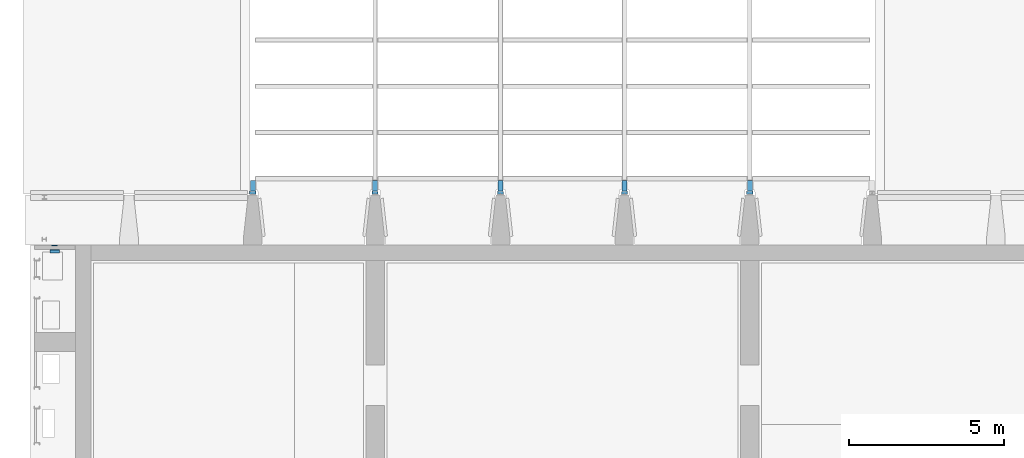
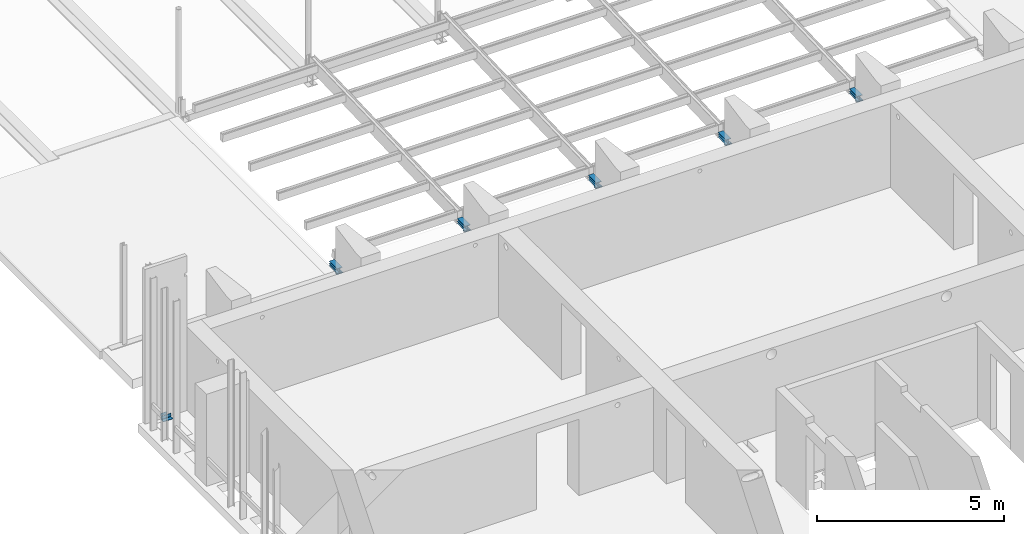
# One storey, part 21 of 31: 17 beams.
"""IFC2X3 building model written with IfcOpenShell, lengths in millimetres."""

import ifcopenshell
import ifcopenshell.guid

model = None  # the IFC model being written
_history = None  # IfcOwnerHistory: only IFC2X3 demands one
_inside = {}  # id of a spatial element -> (the spatial element, [elements in it])
_under = {}  # id of a project, library or spatial element -> (it, [spatial elements below it])
_declared = {}  # id of a project -> (the project, [libraries it declares])
_typed = {}  # id of a type object -> (the type object, [elements of that type])
_made_of = {}  # id of a material, layer set ... -> (it, [elements and type objects made of it])


def new_model(schema):
    """Start an empty IFC model of exactly this schema.

    Asked for "IFC4X3", IfcOpenShell would pick the latest addendum, in which some entities
    have other attributes; the version numbers below select the first issue.
    IFC2X3 requires an IfcOwnerHistory on every rooted entity: one is made here for all.
    """
    global model, _history
    if schema == "IFC4X3":
        model = ifcopenshell.file(schema_version=(4, 3, 0, 0))
    else:
        model = ifcopenshell.file(schema=schema)
    _inside.clear()
    _under.clear()
    _declared.clear()
    _typed.clear()
    _made_of.clear()
    _history = None
    if model.schema == "IFC2X3":
        org = make("IfcOrganization", Name="unknown")
        user = make(
            "IfcPersonAndOrganization",
            ThePerson=make("IfcPerson", FamilyName="unknown"),
            TheOrganization=org,
        )
        app = make(
            "IfcApplication",
            ApplicationDeveloper=org,
            Version="unknown",
            ApplicationFullName="unknown",
            ApplicationIdentifier="unknown",
        )
        _history = make(
            "IfcOwnerHistory",
            OwningUser=user,
            OwningApplication=app,
            ChangeAction="ADDED",
            CreationDate=0,
        )
    return model


def make(cls, **values):
    """One entity of the class cls with the attributes given. An attribute that is None is left unset."""
    return model.create_entity(
        cls, **{name: value for name, value in values.items() if value is not None}
    )


def entity(cls, *values):
    """Any entity or typed value of the class cls, its attributes in the order of the schema. None: left unset."""
    e = model.create_entity(cls)
    for i, value in enumerate(values):
        if value is not None:
            e[i] = value
    return e


def rooted(cls, **values):
    """An entity with a GlobalId (a new one), such as an element, a storey or a relation."""
    return make(cls, GlobalId=ifcopenshell.guid.new(), OwnerHistory=_history, **values)


def si_unit(unit_type, name, prefix=None):
    """IfcSIUnit, for example si_unit("LENGTHUNIT", "METRE", prefix="MILLI")."""
    return make("IfcSIUnit", UnitType=unit_type, Prefix=prefix, Name=name)


def converted_unit(unit_type, name, factor, base, dimensions=None, offset=None):
    """IfcConversionBasedUnit, such as the inch: factor (a typed value) times the base unit."""
    return make(
        "IfcConversionBasedUnit"
        if offset is None
        else "IfcConversionBasedUnitWithOffset",
        ConversionOffset=offset,
        Dimensions=None
        if dimensions is None
        else entity("IfcDimensionalExponents", *dimensions),
        UnitType=unit_type,
        Name=name,
        ConversionFactor=make(
            "IfcMeasureWithUnit", ValueComponent=factor, UnitComponent=base
        ),
    )


def derived_unit(unit_type, elements):
    """IfcDerivedUnit: a product of units, each with its exponent."""
    return make(
        "IfcDerivedUnit",
        Elements=[
            make("IfcDerivedUnitElement", Unit=unit, Exponent=power)
            for unit, power in elements
        ],
        UnitType=unit_type,
    )


def assignment(units):
    """IfcUnitAssignment: the units of a project."""
    return None if units is None else make("IfcUnitAssignment", Units=units)


def point(xyz):
    """IfcCartesianPoint."""
    return None if xyz is None else make("IfcCartesianPoint", Coordinates=xyz)


def direction(xyz):
    """IfcDirection."""
    return None if xyz is None else make("IfcDirection", DirectionRatios=xyz)


def frame(location, z_axis=None, x_axis=None):
    """IfcAxis2Placement3D, a coordinate frame: its origin and axes. An axis left out is left unset."""
    return make(
        "IfcAxis2Placement3D",
        Location=point(location),
        Axis=direction(z_axis),
        RefDirection=direction(x_axis),
    )


def frame_2d(location, x_axis=None):
    """IfcAxis2Placement2D, a coordinate frame in the plane: its origin and x axis."""
    return make(
        "IfcAxis2Placement2D", Location=point(location), RefDirection=direction(x_axis)
    )


def origin():
    """The frame at (0, 0, 0) with its axes left unset."""
    return frame((0.0, 0.0, 0.0))


def origin_2d_with_axis():
    """The frame at (0, 0) in the plane with the x axis (1, 0) written out."""
    return frame_2d((0.0, 0.0), x_axis=(1.0, 0.0))


def place(relative_to, where):
    """IfcLocalPlacement: puts the frame where relative to a parent placement (None: the world)."""
    return make(
        "IfcLocalPlacement", PlacementRelTo=relative_to, RelativePlacement=where
    )


def context(
    kind, dimensions, precision=None, world=None, true_north=None, identifier=None
):
    """IfcGeometricRepresentationContext, for example the 3D "Model" context."""
    return make(
        "IfcGeometricRepresentationContext",
        ContextIdentifier=identifier,
        ContextType=kind,
        CoordinateSpaceDimension=dimensions,
        Precision=precision,
        WorldCoordinateSystem=world,
        TrueNorth=true_north,
    )


def subcontext(parent, identifier, kind, view, scale=None):
    """IfcGeometricRepresentationSubContext, for example "Body" below "Model"."""
    return make(
        "IfcGeometricRepresentationSubContext",
        ContextIdentifier=identifier,
        ContextType=kind,
        ParentContext=parent,
        TargetScale=scale,
        TargetView=view,
    )


def project(units=None, contexts=None):
    """IfcProject with its units and contexts."""
    return rooted(
        "IfcProject",
        Name="project",
        RepresentationContexts=contexts,
        UnitsInContext=assignment(units),
    )


def spatial(cls, under=None, at=None, **own):
    """A site, building, storey or space (cls), placed at a placement, below another one or the project."""
    s = rooted(cls, ObjectPlacement=at, **own)
    if under is not None:
        _under.setdefault(under.id(), (under, []))[1].append(s)
    return s


def polyline(points):
    """IfcPolyline through the points."""
    return make("IfcPolyline", Points=[point(p) for p in points])


def circle_curve(where, radius):
    """IfcCircle in the frame where."""
    return make("IfcCircle", Position=where, Radius=radius)


def parameter(value):
    """IfcParameterValue: where a trimmed curve begins or ends, as a parameter of its basis curve."""
    return model.create_entity("IfcParameterValue", value)


def trimmed(basis, trim1, trim2, sense, master):
    """IfcTrimmedCurve: the piece of a basis curve between two trims."""
    return make(
        "IfcTrimmedCurve",
        BasisCurve=basis,
        Trim1=trim1,
        Trim2=trim2,
        SenseAgreement=sense,
        MasterRepresentation=master,
    )


def segment(curve, same_sense, transition):
    """IfcCompositeCurveSegment."""
    return make(
        "IfcCompositeCurveSegment",
        Transition=transition,
        SameSense=same_sense,
        ParentCurve=curve,
    )


def composite_curve(segments, self_intersect=None):
    """IfcCompositeCurve: segments joined end to end."""
    return make("IfcCompositeCurve", Segments=segments, SelfIntersect=self_intersect)


def profile(cls, at=None, kind="AREA", **sizes):
    """A parametric profile (cls). Its sizes go by their IFC names, for example OverallWidth=200.0."""
    return make(cls, ProfileType=kind, Position=at, **sizes)


def rectangle(**sizes):
    """IfcRectangleProfileDef."""
    return profile("IfcRectangleProfileDef", **sizes)


def i_section(**sizes):
    """IfcIShapeProfileDef."""
    return profile("IfcIShapeProfileDef", **sizes)


def outline(outer, holes=None, kind="AREA"):
    """IfcArbitraryClosedProfileDef: a profile drawn as a closed curve; with holes, ...WithVoids."""
    if holes is None:
        return make("IfcArbitraryClosedProfileDef", ProfileType=kind, OuterCurve=outer)
    return make(
        "IfcArbitraryProfileDefWithVoids",
        ProfileType=kind,
        OuterCurve=outer,
        InnerCurves=holes,
    )


def extrude(swept, where, along, depth):
    """IfcExtrudedAreaSolid: the profile swept, set in the frame where, extruded along a direction by depth."""
    return make(
        "IfcExtrudedAreaSolid",
        SweptArea=swept,
        Position=where,
        ExtrudedDirection=direction(along),
        Depth=depth,
    )


def clip(a, b, op="DIFFERENCE"):
    """IfcBooleanClippingResult: the solid a cut by the half space b."""
    return make(
        "IfcBooleanClippingResult", Operator=op, FirstOperand=a, SecondOperand=b
    )


def halfspace(plane, agree):
    """IfcHalfSpaceSolid: all space on one side of the plane z = 0 of the frame plane."""
    return make(
        "IfcHalfSpaceSolid",
        BaseSurface=make("IfcPlane", Position=plane),
        AgreementFlag=agree,
    )


def shape(context_of_items, identifier, shape_type, items):
    """IfcShapeRepresentation: the items that make up one representation, for example the "Body"."""
    return make(
        "IfcShapeRepresentation",
        ContextOfItems=context_of_items,
        RepresentationIdentifier=identifier,
        RepresentationType=shape_type,
        Items=items,
    )


def source(mapping_origin, context_of_items, identifier, shape_type, items):
    """IfcRepresentationMap: a shape defined once, which mapped items show again and again."""
    return make(
        "IfcRepresentationMap",
        MappingOrigin=mapping_origin,
        MappedRepresentation=shape(context_of_items, identifier, shape_type, items),
    )


def transform(
    local_origin,
    x_axis=None,
    y_axis=None,
    z_axis=None,
    scale=None,
    scale2=None,
    scale3=None,
    uniform=True,
):
    """IfcCartesianTransformationOperator3D, or its non-uniform kind. x_axis, y_axis, z_axis: its Axis1, 2, 3."""
    if uniform:
        return make(
            "IfcCartesianTransformationOperator3D",
            Axis1=direction(x_axis),
            Axis2=direction(y_axis),
            LocalOrigin=point(local_origin),
            Scale=scale,
            Axis3=direction(z_axis),
        )
    return make(
        "IfcCartesianTransformationOperator3DnonUniform",
        Axis1=direction(x_axis),
        Axis2=direction(y_axis),
        LocalOrigin=point(local_origin),
        Scale=scale,
        Axis3=direction(z_axis),
        Scale2=scale2,
        Scale3=scale3,
    )


def mapped(mapping_source, mapping_target):
    """IfcMappedItem: shows the shape of a source again, moved by a transform."""
    return make(
        "IfcMappedItem", MappingSource=mapping_source, MappingTarget=mapping_target
    )


def material(Name=None, Category=None):
    """IfcMaterial."""
    return make("IfcMaterial", Name=Name, Category=Category)


def made_of(thing, what):
    """Note that an element or type object is made of a material, layer set ...; save() writes the relation."""
    if what is not None:
        _made_of.setdefault(what.id(), (what, []))[1].append(thing)
    return thing


def type_object(cls, material=None, **own):
    """A type object (cls), such as IfcWallType, which elements share."""
    return made_of(rooted(cls, **own), material)


def type_shapes(of_type, sources):
    """Give a type object the sources (RepresentationMaps) that its elements show as mapped items."""
    of_type.RepresentationMaps = sources


def element(
    cls,
    number,
    at=None,
    inside=None,
    cuts=None,
    type_object=None,
    material=None,
    context=None,
    identifier="Body",
    shape_type=None,
    held_by="IfcProductDefinitionShape",
    body=None,
    shapes=None,
    **own,
):
    """One element of the class cls, such as IfcWall. Its Tag is "e" and its number.

    at: its placement. inside: the storey or other place that contains it. cuts: it is an
    opening in that element (IfcRelVoidsElement). A single representation is given by context,
    identifier, shape_type and body (its items); several are given by shapes. held_by: the class
    of the entity that holds the representations. save() writes the other relations.
    """
    e = rooted(cls, Tag="e%d" % number, ObjectPlacement=at, **own)
    if body is not None:
        shapes = [shape(context, identifier, shape_type, body)]
    if shapes is not None:
        e.Representation = make(held_by, Representations=shapes)
    if inside is not None:
        _inside.setdefault(inside.id(), (inside, []))[1].append(e)
    if cuts is not None:
        rooted(
            "IfcRelVoidsElement", RelatingBuildingElement=cuts, RelatedOpeningElement=e
        )
    if type_object is not None:
        _typed.setdefault(type_object.id(), (type_object, []))[1].append(e)
    return made_of(e, material)


def aggregate(whole, parts):
    """IfcRelAggregates: a whole, such as a stair, and the parts it consists of."""
    return rooted("IfcRelAggregates", RelatingObject=whole, RelatedObjects=parts)


def save(model, path):
    """Write the relations noted so far, then the file.

    IfcRelAggregates (storeys below a building ...), IfcRelContainedInSpatialStructure (elements
    in a storey), IfcRelDefinesByType, IfcRelAssociatesMaterial and IfcRelDeclares: one each for
    every whole, place, type object, material and project.
    """
    for whole, parts in _under.values():
        aggregate(whole, parts)
    for where, things in _inside.values():
        rooted(
            "IfcRelContainedInSpatialStructure",
            RelatedElements=things,
            RelatingStructure=where,
        )
    for kind, things in _typed.values():
        rooted("IfcRelDefinesByType", RelatedObjects=things, RelatingType=kind)
    for what, things in _made_of.values():
        rooted("IfcRelAssociatesMaterial", RelatedObjects=things, RelatingMaterial=what)
    for by, libraries in _declared.values():
        rooted("IfcRelDeclares", RelatingContext=by, RelatedDefinitions=libraries)
    model.write(path)


model = new_model("IFC2X3")

# Units and contexts
model_context = context("Model", 3, precision=0.01, world=origin(), true_north=direction((6.12303176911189e-17, 1.0)))
body_context = subcontext(model_context, "Body", "Model", "MODEL_VIEW")
ifc_project = project(units=[si_unit("LENGTHUNIT", "METRE", prefix="MILLI"), si_unit("AREAUNIT", "SQUARE_METRE"), si_unit("VOLUMEUNIT", "CUBIC_METRE"), converted_unit("PLANEANGLEUNIT", "DEGREE", entity("IfcRatioMeasure", 0.0174532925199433), si_unit("PLANEANGLEUNIT", "RADIAN"), dimensions=[0, 0, 0, 0, 0, 0, 0]), si_unit("MASSUNIT", "GRAM", prefix="KILO"), derived_unit("MASSDENSITYUNIT", [(si_unit("MASSUNIT", "GRAM", prefix="KILO"), 1), (si_unit("LENGTHUNIT", "METRE"), -3)]), si_unit("TIMEUNIT", "SECOND"), si_unit("FREQUENCYUNIT", "HERTZ"), si_unit("THERMODYNAMICTEMPERATUREUNIT", "DEGREE_CELSIUS"), derived_unit("THERMALTRANSMITTANCEUNIT", [(si_unit("MASSUNIT", "GRAM", prefix="KILO"), 1), (si_unit("THERMODYNAMICTEMPERATUREUNIT", "KELVIN"), -1), (si_unit("TIMEUNIT", "SECOND"), -3)]), derived_unit("VOLUMETRICFLOWRATEUNIT", [(si_unit("LENGTHUNIT", "METRE"), 3), (si_unit("TIMEUNIT", "SECOND"), -1)]), si_unit("ELECTRICCURRENTUNIT", "AMPERE"), si_unit("ELECTRICVOLTAGEUNIT", "VOLT"), si_unit("POWERUNIT", "WATT"), si_unit("FORCEUNIT", "NEWTON", prefix="KILO"), si_unit("ILLUMINANCEUNIT", "LUX"), si_unit("LUMINOUSFLUXUNIT", "LUMEN"), si_unit("LUMINOUSINTENSITYUNIT", "CANDELA"), derived_unit("USERDEFINED", [(si_unit("MASSUNIT", "GRAM", prefix="KILO"), -1), (si_unit("LENGTHUNIT", "METRE"), -2), (si_unit("TIMEUNIT", "SECOND"), 3), (si_unit("LUMINOUSFLUXUNIT", "LUMEN"), 1)]), derived_unit("LINEARVELOCITYUNIT", [(si_unit("LENGTHUNIT", "METRE"), 1), (si_unit("TIMEUNIT", "SECOND"), -1)]), si_unit("PRESSUREUNIT", "PASCAL"), derived_unit("USERDEFINED", [(si_unit("LENGTHUNIT", "METRE"), -2), (si_unit("MASSUNIT", "GRAM", prefix="KILO"), 1), (si_unit("TIMEUNIT", "SECOND"), -2)])], contexts=[model_context])

# Site, building, storey
site_placement = place(None, origin())
site = spatial("IfcSite", under=ifc_project, at=site_placement, Name="Default", CompositionType="ELEMENT")
building_placement = place(site_placement, origin())
building = spatial("IfcBuilding", under=site, at=building_placement, Name="niet gebruiken", CompositionType="ELEMENT")
storey_placement = place(building_placement, frame((0.0, 0.0, 12000.0)))
storey = spatial("IfcBuildingStorey", under=building, at=storey_placement, Name="03 derde verdieping", CompositionType="ELEMENT", Elevation=12000.0)

# Beams
ifc_material = material(Name="NLRS_h2_staal")
beam_type_1 = type_object("IfcBeamType", Name="NLRS_28.11_SF_WPB_stalen ligger HEB_gen:ligger HEB 160", PredefinedType="BEAM")
beam_1_placement = place(storey_placement, frame((139750.0, 34890.0, 1480.0), z_axis=(0.0, 0.0, 1.0), x_axis=(0.0, 1.0, 0.0)))
element("IfcBeam", 1, at=beam_1_placement, inside=storey, type_object=beam_type_1, material=ifc_material, Name="NLRS_28.11_SF_WPB_stalen ligger HEB_gen:ligger HEB 160", ObjectType="NLRS_28.11_SF_WPB_stalen ligger HEB_gen:ligger HEB 160", context=body_context, shape_type="Clipping", body=[
    clip(extrude(i_section(OverallWidth=159.999999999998, OverallDepth=160.0, WebThickness=7.99999999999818, FlangeThickness=13.0000000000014, FilletRadius=14.9999999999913, at=frame_2d((0.0, -1.73301373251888e-11), x_axis=(0.0, 1.0))), frame((0.0, 0.0, -80.0), z_axis=(1.0, 0.0, 0.0), x_axis=(0.0, 0.0, -1.0)), (0.0, 0.0, 1.0), 428.337750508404), halfspace(frame((421.948516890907, -465.0, 22.963712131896), z_axis=(0.999390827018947, 0.0, 0.0348994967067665), x_axis=(0.0, 1.0, 0.0)), False)),
])
for number, where, z_axis, x_axis, name in (
    (2, (135700.0, 34890.0, 1480.0), (0.0, 0.0, 1.0), (0.0, 1.0, 0.0), "NLRS_28.11_SF_WPB_stalen ligger HEB_gen:ligger HEB 160"),
    (3, (131750.0, 34890.0, 1480.0), (0.0, 0.0, 1.0), (0.0, 1.0, 0.0), "NLRS_28.11_SF_WPB_stalen ligger HEB_gen:ligger HEB 160"),
):
    element("IfcBeam", number, at=place(storey_placement, frame(where, z_axis=z_axis, x_axis=x_axis)), inside=storey, type_object=beam_type_1, material=ifc_material, Name=name, ObjectType="NLRS_28.11_SF_WPB_stalen ligger HEB_gen:ligger HEB 160", context=body_context, shape_type="Clipping", body=[
        clip(extrude(i_section(OverallWidth=159.999999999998, OverallDepth=160.0, WebThickness=7.99999999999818, FlangeThickness=13.0000000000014, FilletRadius=14.9999999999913, at=frame_2d((0.0, 0.0), x_axis=(0.0, 1.0))), frame((0.0, 0.0, -80.0), z_axis=(1.0, 0.0, 0.0), x_axis=(0.0, 0.0, -1.0)), (0.0, 0.0, 1.0), 428.337750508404), halfspace(frame((421.948516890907, -465.0, 22.963712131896), z_axis=(0.999390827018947, 0.0, 0.0348994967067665), x_axis=(0.0, 1.0, 0.0)), False)),
    ])
beam_2_placement = place(storey_placement, frame((143750.0, 34890.0, 1480.0), z_axis=(0.0, 0.0, 1.0), x_axis=(0.0, 1.0, 0.0)))
element("IfcBeam", 4, at=beam_2_placement, inside=storey, type_object=beam_type_1, material=ifc_material, Name="NLRS_28.11_SF_WPB_stalen ligger HEB_gen:ligger HEB 160", ObjectType="NLRS_28.11_SF_WPB_stalen ligger HEB_gen:ligger HEB 160", context=body_context, shape_type="Clipping", body=[
    clip(extrude(i_section(OverallWidth=159.999999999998, OverallDepth=160.0, WebThickness=7.99999999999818, FlangeThickness=13.0000000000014, FilletRadius=14.9999999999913, at=frame_2d((0.0, -1.73301373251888e-11), x_axis=(0.0, 1.0))), frame((0.0, 0.0, -80.0), z_axis=(1.0, 0.0, 0.0), x_axis=(0.0, 0.0, -1.0)), (0.0, 0.0, 1.0), 428.337750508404), halfspace(frame((421.948516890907, -465.0, 22.963712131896), z_axis=(0.999390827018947, 0.0, 0.0348994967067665), x_axis=(0.0, 1.0, 0.0)), False)),
])
beam_3_placement = place(storey_placement, frame((147800.0, 34890.0, 1480.0), z_axis=(0.0, 0.0, 1.0), x_axis=(0.0, 1.0, 0.0)))
element("IfcBeam", 5, at=beam_3_placement, inside=storey, type_object=beam_type_1, material=ifc_material, Name="NLRS_28.11_SF_WPB_stalen ligger HEB_gen:ligger HEB 160", ObjectType="NLRS_28.11_SF_WPB_stalen ligger HEB_gen:ligger HEB 160", context=body_context, shape_type="Clipping", body=[
    clip(extrude(i_section(OverallWidth=159.999999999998, OverallDepth=160.0, WebThickness=7.99999999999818, FlangeThickness=13.0000000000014, FilletRadius=14.9999999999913, at=frame_2d((0.0, 1.73301373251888e-11), x_axis=(0.0, 1.0))), frame((0.0, 0.0, -80.0), z_axis=(1.0, 0.0, 0.0), x_axis=(0.0, 0.0, -1.0)), (0.0, 0.0, 1.0), 428.337750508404), halfspace(frame((421.948516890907, -465.0, 22.963712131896), z_axis=(0.999390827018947, 0.0, 0.0348994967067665), x_axis=(0.0, 1.0, 0.0)), False)),
])
beam_type_2 = type_object("IfcBeamType", Name="ligger stripstaal RECT_160x10", PredefinedType="BEAM", material=ifc_material)
shared_shape_1 = source(origin(), body_context, "Body", "SweptSolid", [
    extrude(rectangle(XDim=345.0, YDim=159.999999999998, at=frame_2d((4.33431068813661e-12, 0.0), x_axis=(1.0, 0.0))), frame((139750.0, 35142.5, 13390.0), z_axis=(0.0, 0.0, 1.0), x_axis=(0.0, -1.0, 0.0)), (0.0, 0.0, 1.0), 9.99999999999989),
    extrude(rectangle(XDim=345.0, YDim=159.999999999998, at=frame_2d((4.33431068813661e-12, 0.0), x_axis=(1.0, 0.0))), frame((139750.0, 35142.5, 13390.0), z_axis=(0.0, 0.0, 1.0), x_axis=(0.0, -1.0, 0.0)), (0.0, 0.0, 1.0), 9.99999999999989),
])
type_shapes(beam_type_2, [shared_shape_1])
beam_4_placement = place(storey_placement, frame((0.0, 0.0, -12000.0)))
element("IfcBeam", 6, at=beam_4_placement, inside=storey, type_object=beam_type_2, material=ifc_material, Name="NLRS_28.11_SF_WPB_stalen ligger stripstaal_gen:ligger stripstaal RECT_160x10", ObjectType="ligger stripstaal RECT_160x10", context=body_context, shape_type="MappedRepresentation", body=[
    mapped(shared_shape_1, transform((0.0, 0.0, 0.0), scale=1.0)),
])
beam_type_3 = type_object("IfcBeamType", Name="ligger stripstaal RECT_100x15", PredefinedType="BEAM", material=ifc_material)
shared_shape_2 = source(origin(), body_context, "Body", "SweptSolid", [
    extrude(rectangle(XDim=199.999999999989, YDim=100.000000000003, at=frame_2d((1.73301373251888e-11, 0.0), x_axis=(1.0, 0.0))), frame((139750.0, 34920.0, 13300.0)), (0.0, 0.0, 1.0), 14.9999999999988),
    extrude(rectangle(XDim=199.999999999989, YDim=100.000000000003, at=frame_2d((1.73301373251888e-11, 0.0), x_axis=(1.0, 0.0))), frame((139750.0, 34920.0, 13300.0)), (0.0, 0.0, 1.0), 14.9999999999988),
])
type_shapes(beam_type_3, [shared_shape_2])
beam_5_placement = place(storey_placement, frame((0.0, 0.0, -12000.0)))
element("IfcBeam", 7, at=beam_5_placement, inside=storey, type_object=beam_type_3, material=ifc_material, Name="NLRS_28.11_SF_WPB_stalen ligger stripstaal_gen:ligger stripstaal RECT_100x15", ObjectType="ligger stripstaal RECT_100x15", context=body_context, shape_type="MappedRepresentation", body=[
    mapped(shared_shape_2, transform((0.0, 0.0, 0.0), scale=1.0)),
])
beam_type_4 = type_object("IfcBeamType", Name="ligger stripstaal RECT_160x10", PredefinedType="BEAM", material=ifc_material)
shared_shape_3 = source(origin(), body_context, "Body", "SweptSolid", [
    extrude(rectangle(XDim=345.0, YDim=159.999999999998, at=origin_2d_with_axis()), frame((135700.0, 35142.5, 13390.0), z_axis=(0.0, 0.0, 1.0), x_axis=(0.0, -1.0, 0.0)), (0.0, 0.0, 1.0), 9.99999999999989),
    extrude(rectangle(XDim=345.0, YDim=159.999999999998, at=origin_2d_with_axis()), frame((135700.0, 35142.5, 13390.0), z_axis=(0.0, 0.0, 1.0), x_axis=(0.0, -1.0, 0.0)), (0.0, 0.0, 1.0), 9.99999999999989),
])
type_shapes(beam_type_4, [shared_shape_3])
beam_6_placement = place(storey_placement, frame((0.0, 0.0, -12000.0)))
element("IfcBeam", 8, at=beam_6_placement, inside=storey, type_object=beam_type_4, material=ifc_material, Name="NLRS_28.11_SF_WPB_stalen ligger stripstaal_gen:ligger stripstaal RECT_160x10", ObjectType="ligger stripstaal RECT_160x10", context=body_context, shape_type="MappedRepresentation", body=[
    mapped(shared_shape_3, transform((0.0, 0.0, 0.0), scale=1.0)),
])
beam_type_5 = type_object("IfcBeamType", Name="ligger stripstaal RECT_100x15", PredefinedType="BEAM", material=ifc_material)
shared_shape_4 = source(origin(), body_context, "Body", "SweptSolid", [
    extrude(rectangle(XDim=199.999999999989, YDim=100.000000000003, at=frame_2d((0.0, 4.33431068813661e-12), x_axis=(1.0, 0.0))), frame((135700.0, 34920.0, 13300.0)), (0.0, 0.0, 1.0), 14.9999999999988),
    extrude(rectangle(XDim=199.999999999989, YDim=100.000000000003, at=frame_2d((0.0, 4.33431068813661e-12), x_axis=(1.0, 0.0))), frame((135700.0, 34920.0, 13300.0)), (0.0, 0.0, 1.0), 14.9999999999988),
])
type_shapes(beam_type_5, [shared_shape_4])
beam_7_placement = place(storey_placement, frame((0.0, 0.0, -12000.0)))
element("IfcBeam", 9, at=beam_7_placement, inside=storey, type_object=beam_type_5, material=ifc_material, Name="NLRS_28.11_SF_WPB_stalen ligger stripstaal_gen:ligger stripstaal RECT_100x15", ObjectType="ligger stripstaal RECT_100x15", context=body_context, shape_type="MappedRepresentation", body=[
    mapped(shared_shape_4, transform((0.0, 0.0, 0.0), scale=1.0)),
])
beam_type_6 = type_object("IfcBeamType", Name="ligger stripstaal RECT_160x10", PredefinedType="BEAM", material=ifc_material)
shared_shape_5 = source(origin(), body_context, "Body", "SweptSolid", [
    extrude(rectangle(XDim=345.0, YDim=159.999999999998, at=frame_2d((0.0, -1.73301373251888e-11), x_axis=(1.0, 0.0))), frame((131750.0, 35142.5, 13390.0), z_axis=(0.0, 0.0, 1.0), x_axis=(0.0, -1.0, 0.0)), (0.0, 0.0, 1.0), 9.99999999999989),
    extrude(rectangle(XDim=345.0, YDim=159.999999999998, at=frame_2d((0.0, -1.73301373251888e-11), x_axis=(1.0, 0.0))), frame((131750.0, 35142.5, 13390.0), z_axis=(0.0, 0.0, 1.0), x_axis=(0.0, -1.0, 0.0)), (0.0, 0.0, 1.0), 9.99999999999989),
])
type_shapes(beam_type_6, [shared_shape_5])
beam_8_placement = place(storey_placement, frame((0.0, 0.0, -12000.0)))
element("IfcBeam", 10, at=beam_8_placement, inside=storey, type_object=beam_type_6, material=ifc_material, Name="NLRS_28.11_SF_WPB_stalen ligger stripstaal_gen:ligger stripstaal RECT_160x10", ObjectType="ligger stripstaal RECT_160x10", context=body_context, shape_type="MappedRepresentation", body=[
    mapped(shared_shape_5, transform((0.0, 0.0, 0.0), scale=1.0)),
])
beam_type_7 = type_object("IfcBeamType", Name="ligger stripstaal RECT_100x15", PredefinedType="BEAM", material=ifc_material)
shared_shape_6 = source(origin(), body_context, "Body", "SweptSolid", [
    extrude(rectangle(XDim=199.999999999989, YDim=100.000000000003, at=origin_2d_with_axis()), frame((131750.0, 34920.0, 13300.0)), (0.0, 0.0, 1.0), 14.9999999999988),
    extrude(rectangle(XDim=199.999999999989, YDim=100.000000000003, at=origin_2d_with_axis()), frame((131750.0, 34920.0, 13300.0)), (0.0, 0.0, 1.0), 14.9999999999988),
])
type_shapes(beam_type_7, [shared_shape_6])
beam_9_placement = place(storey_placement, frame((0.0, 0.0, -12000.0)))
element("IfcBeam", 11, at=beam_9_placement, inside=storey, type_object=beam_type_7, material=ifc_material, Name="NLRS_28.11_SF_WPB_stalen ligger stripstaal_gen:ligger stripstaal RECT_100x15", ObjectType="ligger stripstaal RECT_100x15", context=body_context, shape_type="MappedRepresentation", body=[
    mapped(shared_shape_6, transform((0.0, 0.0, 0.0), scale=1.0)),
])
beam_type_8 = type_object("IfcBeamType", Name="ligger stripstaal RECT_160x10", PredefinedType="BEAM", material=ifc_material)
shared_shape_7 = source(origin(), body_context, "Body", "SweptSolid", [
    extrude(rectangle(XDim=345.0, YDim=159.999999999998, at=origin_2d_with_axis()), frame((143750.0, 35142.5, 13390.0), z_axis=(0.0, 0.0, 1.0), x_axis=(0.0, -1.0, 0.0)), (0.0, 0.0, 1.0), 9.99999999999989),
    extrude(rectangle(XDim=345.0, YDim=159.999999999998, at=origin_2d_with_axis()), frame((143750.0, 35142.5, 13390.0), z_axis=(0.0, 0.0, 1.0), x_axis=(0.0, -1.0, 0.0)), (0.0, 0.0, 1.0), 9.99999999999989),
])
type_shapes(beam_type_8, [shared_shape_7])
beam_10_placement = place(storey_placement, frame((0.0, 0.0, -12000.0)))
element("IfcBeam", 12, at=beam_10_placement, inside=storey, type_object=beam_type_8, material=ifc_material, Name="NLRS_28.11_SF_WPB_stalen ligger stripstaal_gen:ligger stripstaal RECT_160x10", ObjectType="ligger stripstaal RECT_160x10", context=body_context, shape_type="MappedRepresentation", body=[
    mapped(shared_shape_7, transform((0.0, 0.0, 0.0), scale=1.0)),
])
beam_type_9 = type_object("IfcBeamType", Name="ligger stripstaal RECT_100x15", PredefinedType="BEAM", material=ifc_material)
shared_shape_8 = source(origin(), body_context, "Body", "SweptSolid", [
    extrude(rectangle(XDim=199.999999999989, YDim=100.000000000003, at=frame_2d((-1.73301373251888e-11, 0.0), x_axis=(1.0, 0.0))), frame((143750.0, 34920.0, 13300.0)), (0.0, 0.0, 1.0), 14.9999999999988),
    extrude(rectangle(XDim=199.999999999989, YDim=100.000000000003, at=frame_2d((-1.73301373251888e-11, 0.0), x_axis=(1.0, 0.0))), frame((143750.0, 34920.0, 13300.0)), (0.0, 0.0, 1.0), 14.9999999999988),
])
type_shapes(beam_type_9, [shared_shape_8])
beam_11_placement = place(storey_placement, frame((0.0, 0.0, -12000.0)))
element("IfcBeam", 13, at=beam_11_placement, inside=storey, type_object=beam_type_9, material=ifc_material, Name="NLRS_28.11_SF_WPB_stalen ligger stripstaal_gen:ligger stripstaal RECT_100x15", ObjectType="ligger stripstaal RECT_100x15", context=body_context, shape_type="MappedRepresentation", body=[
    mapped(shared_shape_8, transform((0.0, 0.0, 0.0), scale=1.0)),
])
beam_type_10 = type_object("IfcBeamType", Name="ligger stripstaal RECT_160x10", PredefinedType="BEAM", material=ifc_material)
shared_shape_9 = source(origin(), body_context, "Body", "SweptSolid", [
    extrude(rectangle(XDim=345.0, YDim=159.999999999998, at=frame_2d((0.0, -1.73301373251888e-11), x_axis=(1.0, 0.0))), frame((147800.0, 35142.5, 13390.0), z_axis=(0.0, 0.0, 1.0), x_axis=(0.0, -1.0, 0.0)), (0.0, 0.0, 1.0), 9.99999999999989),
    extrude(rectangle(XDim=345.0, YDim=159.999999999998, at=frame_2d((0.0, -1.73301373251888e-11), x_axis=(1.0, 0.0))), frame((147800.0, 35142.5, 13390.0), z_axis=(0.0, 0.0, 1.0), x_axis=(0.0, -1.0, 0.0)), (0.0, 0.0, 1.0), 9.99999999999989),
])
type_shapes(beam_type_10, [shared_shape_9])
beam_12_placement = place(storey_placement, frame((0.0, 0.0, -12000.0)))
element("IfcBeam", 14, at=beam_12_placement, inside=storey, type_object=beam_type_10, material=ifc_material, Name="NLRS_28.11_SF_WPB_stalen ligger stripstaal_gen:ligger stripstaal RECT_160x10", ObjectType="ligger stripstaal RECT_160x10", context=body_context, shape_type="MappedRepresentation", body=[
    mapped(shared_shape_9, transform((0.0, 0.0, 0.0), scale=1.0)),
])
beam_type_11 = type_object("IfcBeamType", Name="ligger stripstaal RECT_100x15", PredefinedType="BEAM", material=ifc_material)
shared_shape_10 = source(origin(), body_context, "Body", "SweptSolid", [
    extrude(rectangle(XDim=199.999999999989, YDim=100.000000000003, at=origin_2d_with_axis()), frame((147800.0, 34920.0, 13300.0)), (0.0, 0.0, 1.0), 14.9999999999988),
    extrude(rectangle(XDim=199.999999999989, YDim=100.000000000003, at=origin_2d_with_axis()), frame((147800.0, 34920.0, 13300.0)), (0.0, 0.0, 1.0), 14.9999999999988),
])
type_shapes(beam_type_11, [shared_shape_10])
beam_13_placement = place(storey_placement, frame((0.0, 0.0, -12000.0)))
element("IfcBeam", 15, at=beam_13_placement, inside=storey, type_object=beam_type_11, material=ifc_material, Name="NLRS_28.11_SF_WPB_stalen ligger stripstaal_gen:ligger stripstaal RECT_100x15", ObjectType="ligger stripstaal RECT_100x15", context=body_context, shape_type="MappedRepresentation", body=[
    mapped(shared_shape_10, transform((0.0, 0.0, 0.0), scale=1.0)),
])
beam_type_12 = type_object("IfcBeamType", Name="NLRS_28.11_SF_WPB_stalen ligger hoekprofiel gelijkzijdig_gen:ligger gelijzijdig hoekprofiel LEQU_120x120x12_!", PredefinedType="BEAM")
beam_14_placement = place(storey_placement, frame((125500.0, 33070.0, 30.0), z_axis=(0.0, 0.0, 1.0), x_axis=(-1.0, 0.0, 0.0)))
element("IfcBeam", 16, at=beam_14_placement, inside=storey, type_object=beam_type_12, material=ifc_material, Name="NLRS_28.11_SF_WPB_stalen ligger hoekprofiel gelijkzijdig_gen:ligger gelijzijdig hoekprofiel LEQU_120x120x12_!", ObjectType="NLRS_28.11_SF_WPB_stalen ligger hoekprofiel gelijkzijdig_gen:ligger gelijzijdig hoekprofiel LEQU_120x120x12_!", context=body_context, shape_type="SweptSolid", body=[
    extrude(outline(composite_curve([segment(polyline([(-75.5555555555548, -44.4444444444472), (44.444444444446, -44.4444444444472)]), True, "CONTINUOUS"), segment(polyline([(44.444444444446, -44.4444444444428), (44.4444444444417, 75.5555555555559)]), True, "CONTINUOUS"), segment(polyline([(44.4444444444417, 75.5555555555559), (40.4444444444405, 75.5555555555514)]), True, "CONTINUOUS"), segment(trimmed(circle_curve(frame_2d((40.4444444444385, 69.5555555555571), x_axis=(0.0, 1.0)), 5.99999999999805), [parameter(0.0)], [parameter(90.0000000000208)], True, "PARAMETER"), True, "CONTINUOUS"), segment(polyline([(34.4444444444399, 69.5555555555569), (34.4444444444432, -22.4444444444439)]), True, "CONTINUOUS"), segment(trimmed(circle_curve(frame_2d((22.4444444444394, -22.44444444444), x_axis=(1.0, 0.0)), 12.0000000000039), [parameter(270.000000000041)], [parameter(0.0)], True, "PARAMETER"), False, "CONTINUOUS"), segment(polyline([(22.4444444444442, -34.4444444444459), (-69.5555555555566, -34.4444444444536)]), True, "CONTINUOUS"), segment(trimmed(circle_curve(frame_2d((-69.5555555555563, -40.4444444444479), x_axis=(0.0, 1.0)), 5.99999999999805), [parameter(0.0)], [parameter(90.0000000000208)], True, "PARAMETER"), True, "CONTINUOUS"), segment(polyline([(-75.555555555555, -40.4444444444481), (-75.5555555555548, -44.4444444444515)]), True, "CONTINUOUS")], self_intersect=False)), frame((0.0, 24.444444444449, -75.5555555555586), z_axis=(1.0, 0.0, 0.0), x_axis=(0.0, 0.0, -1.0)), (0.0, 0.0, 1.0), 300.000000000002),
])
beam_type_13 = type_object("IfcBeamType", Name="ligger stripstaal RECT_80x12 gedraaid_!", PredefinedType="BEAM", material=ifc_material)
shared_shape_11 = source(origin(), body_context, "Body", "SweptSolid", [
    extrude(rectangle(XDim=179.99999999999, YDim=12.0, at=origin_2d_with_axis()), frame((0.0, 0.0, -40.0), z_axis=(0.0, 0.0, 1.0), x_axis=(-1.0, 0.0, 0.0)), (0.0, 0.0, 1.0), 80.0),
    extrude(rectangle(XDim=179.99999999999, YDim=12.0, at=origin_2d_with_axis()), frame((0.0, 0.0, -40.0), z_axis=(0.0, 0.0, 1.0), x_axis=(-1.0, 0.0, 0.0)), (0.0, 0.0, 1.0), 80.0),
])
type_shapes(beam_type_13, [shared_shape_11])
beam_15_placement = place(storey_placement, frame((125350.0, 33216.0, -20.0)))
element("IfcBeam", 17, at=beam_15_placement, inside=storey, type_object=beam_type_13, material=ifc_material, Name="NLRS_28.11_SF_WPB_stalen ligger stripstaal_gen:ligger stripstaal RECT_80x12 gedraaid_!", ObjectType="ligger stripstaal RECT_80x12 gedraaid_!", context=body_context, shape_type="MappedRepresentation", body=[
    mapped(shared_shape_11, transform((0.0, 0.0, 0.0), scale=1.0)),
])

save(model, "model.ifc")
